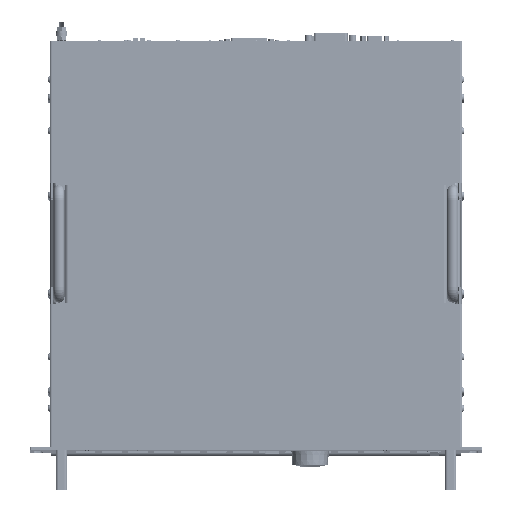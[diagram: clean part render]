
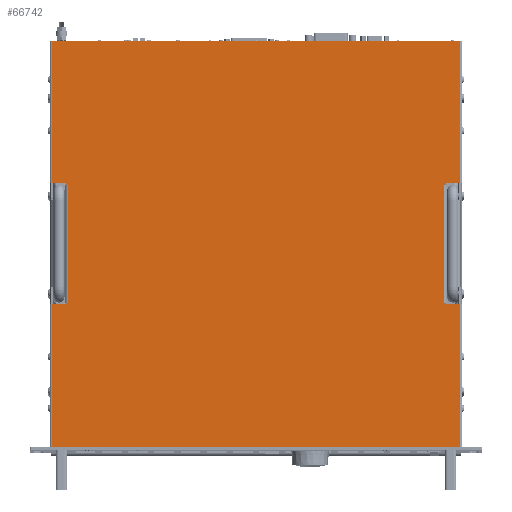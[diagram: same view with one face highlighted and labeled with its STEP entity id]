
A CAD part, top view. The second image highlights one B-rep face of the part: STEP entity #66742.
In plain terms, the highlighted planar face has unit normal (0, 0, 1).
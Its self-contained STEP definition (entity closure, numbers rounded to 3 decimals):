
#66742=ADVANCED_FACE('',(#139673),#139674,.F.);
#139673=FACE_OUTER_BOUND('',#244630,.T.);
#139674=PLANE('',#244631);
#244630=EDGE_LOOP('',(#440997,#440998,#440999,#441000,#441001,#441002,#441003,#441004,#441005,#441006,#441007,#441008,#441009,#441010,#441011,#441012,#441013,#441014,#441015,#441016));
#244631=AXIS2_PLACEMENT_3D('',#441017,#441018,#441019);
#440997=ORIENTED_EDGE('',*,*,#544781,.T.);
#440998=ORIENTED_EDGE('',*,*,#544801,.F.);
#440999=ORIENTED_EDGE('',*,*,#544802,.F.);
#441000=ORIENTED_EDGE('',*,*,#544445,.F.);
#441001=ORIENTED_EDGE('',*,*,#544767,.F.);
#441002=ORIENTED_EDGE('',*,*,#544430,.F.);
#441003=ORIENTED_EDGE('',*,*,#544756,.F.);
#441004=ORIENTED_EDGE('',*,*,#544803,.F.);
#441005=ORIENTED_EDGE('',*,*,#544799,.T.);
#441006=ORIENTED_EDGE('',*,*,#544794,.F.);
#441007=ORIENTED_EDGE('',*,*,#544791,.T.);
#441008=ORIENTED_EDGE('',*,*,#544804,.F.);
#441009=ORIENTED_EDGE('',*,*,#544732,.F.);
#441010=ORIENTED_EDGE('',*,*,#544420,.F.);
#441011=ORIENTED_EDGE('',*,*,#544721,.F.);
#441012=ORIENTED_EDGE('',*,*,#544440,.F.);
#441013=ORIENTED_EDGE('',*,*,#544805,.F.);
#441014=ORIENTED_EDGE('',*,*,#544806,.F.);
#441015=ORIENTED_EDGE('',*,*,#544778,.T.);
#441016=ORIENTED_EDGE('',*,*,#544786,.T.);
#441017=CARTESIAN_POINT('',(241.3,262.625,859.891));
#441018=DIRECTION('',(0.,0.,-1.0));
#441019=DIRECTION('',(-1.0,0.,0.));
#544420=EDGE_CURVE('',#662220,#662222,#662223,.T.);
#544430=EDGE_CURVE('',#662238,#662240,#662241,.T.);
#544440=EDGE_CURVE('',#662256,#662258,#662259,.T.);
#544445=EDGE_CURVE('',#662265,#662267,#662268,.T.);
#544721=EDGE_CURVE('',#662258,#662220,#662698,.T.);
#544732=EDGE_CURVE('',#662222,#662713,#662714,.T.);
#544756=EDGE_CURVE('',#662746,#662238,#662748,.T.);
#544767=EDGE_CURVE('',#662240,#662265,#662763,.T.);
#544778=EDGE_CURVE('',#662774,#662777,#662779,.T.);
#544781=EDGE_CURVE('',#662784,#662781,#662785,.T.);
#544786=EDGE_CURVE('',#662777,#662784,#662790,.T.);
#544791=EDGE_CURVE('',#662796,#662794,#662797,.T.);
#544794=EDGE_CURVE('',#662796,#662800,#662801,.T.);
#544799=EDGE_CURVE('',#662806,#662800,#662808,.T.);
#544801=EDGE_CURVE('',#662810,#662781,#662811,.T.);
#544802=EDGE_CURVE('',#662267,#662810,#662812,.T.);
#544803=EDGE_CURVE('',#662806,#662746,#662813,.T.);
#544804=EDGE_CURVE('',#662713,#662794,#662814,.T.);
#544805=EDGE_CURVE('',#662815,#662256,#662816,.T.);
#544806=EDGE_CURVE('',#662774,#662815,#662817,.T.);
#662220=VERTEX_POINT('',#832378);
#662222=VERTEX_POINT('',#832380);
#662223=LINE('',#832381,#832382);
#662238=VERTEX_POINT('',#832400);
#662240=VERTEX_POINT('',#832402);
#662241=LINE('',#832403,#832404);
#662256=VERTEX_POINT('',#832422);
#662258=VERTEX_POINT('',#832424);
#662259=LINE('',#832425,#832426);
#662265=VERTEX_POINT('',#832433);
#662267=VERTEX_POINT('',#832435);
#662268=LINE('',#832436,#832437);
#662698=LINE('',#832988,#832989);
#662713=VERTEX_POINT('',#833009);
#662714=LINE('',#833010,#833011);
#662746=VERTEX_POINT('',#833057);
#662748=LINE('',#833060,#833061);
#662763=LINE('',#833081,#833082);
#662774=VERTEX_POINT('',#833097);
#662777=VERTEX_POINT('',#833101);
#662779=LINE('',#833103,#833104);
#662781=VERTEX_POINT('',#833106);
#662784=VERTEX_POINT('',#833110);
#662785=LINE('',#833111,#833112);
#662790=LINE('',#833117,#833118);
#662794=VERTEX_POINT('',#833123);
#662796=VERTEX_POINT('',#833126);
#662797=LINE('',#833127,#833128);
#662800=VERTEX_POINT('',#833131);
#662801=LINE('',#833132,#833133);
#662806=VERTEX_POINT('',#833138);
#662808=LINE('',#833141,#833142);
#662810=VERTEX_POINT('',#833144);
#662811=LINE('',#833145,#833146);
#662812=LINE('',#833147,#833148);
#662813=LINE('',#833149,#833150);
#662814=LINE('',#833151,#833152);
#662815=VERTEX_POINT('',#833153);
#662816=LINE('',#833154,#833155);
#662817=LINE('',#833156,#833157);
#832378=CARTESIAN_POINT('',(458.977,479.25,859.891));
#832380=CARTESIAN_POINT('',(458.977,327.25,859.891));
#832381=CARTESIAN_POINT('',(458.977,332.938,859.891));
#832382=VECTOR('',#937584,1.0);
#832400=CARTESIAN_POINT('',(458.977,198.,859.891));
#832402=CARTESIAN_POINT('',(458.977,46.,859.891));
#832403=CARTESIAN_POINT('',(458.977,192.313,859.891));
#832404=VECTOR('',#937600,1.0);
#832422=CARTESIAN_POINT('',(23.623,327.25,859.891));
#832424=CARTESIAN_POINT('',(23.623,479.25,859.891));
#832425=CARTESIAN_POINT('',(23.623,332.938,859.891));
#832426=VECTOR('',#937616,1.0);
#832433=CARTESIAN_POINT('',(23.623,46.,859.891));
#832435=CARTESIAN_POINT('',(23.623,198.,859.891));
#832436=CARTESIAN_POINT('',(23.623,192.313,859.891));
#832437=VECTOR('',#937624,1.0);
#832988=CARTESIAN_POINT('',(20.873,479.25,859.891));
#832989=VECTOR('',#938010,1.0);
#833009=CARTESIAN_POINT('',(443.727,327.25,859.891));
#833010=CARTESIAN_POINT('',(461.727,327.25,859.891));
#833011=VECTOR('',#938028,1.0);
#833057=CARTESIAN_POINT('',(443.727,198.,859.891));
#833060=CARTESIAN_POINT('',(443.727,198.,859.891));
#833061=VECTOR('',#938056,1.0);
#833081=CARTESIAN_POINT('',(461.727,46.,859.891));
#833082=VECTOR('',#938074,1.0);
#833097=CARTESIAN_POINT('',(38.873,325.25,859.891));
#833101=CARTESIAN_POINT('',(40.623,325.25,859.891));
#833103=CARTESIAN_POINT('',(140.007,325.25,859.891));
#833104=VECTOR('',#938086,1.0);
#833106=CARTESIAN_POINT('',(38.873,200.,859.891));
#833110=CARTESIAN_POINT('',(40.623,200.,859.891));
#833111=CARTESIAN_POINT('',(140.007,200.,859.891));
#833112=VECTOR('',#938088,1.0);
#833117=CARTESIAN_POINT('',(40.623,262.625,859.891));
#833118=VECTOR('',#938098,1.0);
#833123=CARTESIAN_POINT('',(443.727,325.25,859.891));
#833126=CARTESIAN_POINT('',(441.977,325.25,859.891));
#833127=CARTESIAN_POINT('',(342.593,325.25,859.891));
#833128=VECTOR('',#938101,1.0);
#833131=CARTESIAN_POINT('',(441.977,200.,859.891));
#833132=CARTESIAN_POINT('',(441.977,262.625,859.891));
#833133=VECTOR('',#938105,1.0);
#833138=CARTESIAN_POINT('',(443.727,200.,859.891));
#833141=CARTESIAN_POINT('',(342.593,200.,859.891));
#833142=VECTOR('',#938113,1.0);
#833144=CARTESIAN_POINT('',(38.873,198.,859.891));
#833145=CARTESIAN_POINT('',(38.873,198.,859.891));
#833146=VECTOR('',#938114,1.0);
#833147=CARTESIAN_POINT('',(20.873,198.,859.891));
#833148=VECTOR('',#938115,1.0);
#833149=CARTESIAN_POINT('',(443.727,200.,859.891));
#833150=VECTOR('',#938116,1.0);
#833151=CARTESIAN_POINT('',(443.727,327.25,859.891));
#833152=VECTOR('',#938117,1.0);
#833153=CARTESIAN_POINT('',(38.873,327.25,859.891));
#833154=CARTESIAN_POINT('',(38.873,327.25,859.891));
#833155=VECTOR('',#938118,1.0);
#833156=CARTESIAN_POINT('',(38.873,325.25,859.891));
#833157=VECTOR('',#938119,1.0);
#937584=DIRECTION('',(0.0,-1.0,0.0));
#937600=DIRECTION('',(0.0,-1.0,0.0));
#937616=DIRECTION('',(0.0,1.0,0.0));
#937624=DIRECTION('',(0.0,1.0,0.0));
#938010=DIRECTION('',(1.0,0.0,0.0));
#938028=DIRECTION('',(-1.0,0.0,0.0));
#938056=DIRECTION('',(1.0,0.0,0.0));
#938074=DIRECTION('',(-1.0,0.0,0.0));
#938086=DIRECTION('',(1.0,0.0,0.0));
#938088=DIRECTION('',(-1.0,0.,0.0));
#938098=DIRECTION('',(0.0,-1.0,0.0));
#938101=DIRECTION('',(1.0,0.0,0.0));
#938105=DIRECTION('',(0.0,-1.0,0.0));
#938113=DIRECTION('',(-1.0,0.,0.0));
#938114=DIRECTION('',(0.0,1.0,0.0));
#938115=DIRECTION('',(1.0,0.0,0.0));
#938116=DIRECTION('',(0.0,-1.0,0.0));
#938117=DIRECTION('',(0.0,-1.0,0.0));
#938118=DIRECTION('',(-1.0,0.0,0.0));
#938119=DIRECTION('',(0.0,1.0,0.0));
